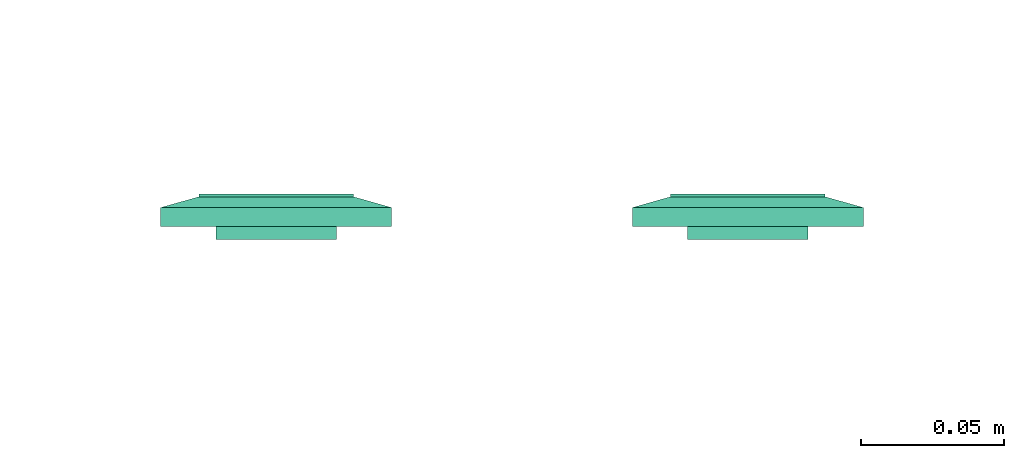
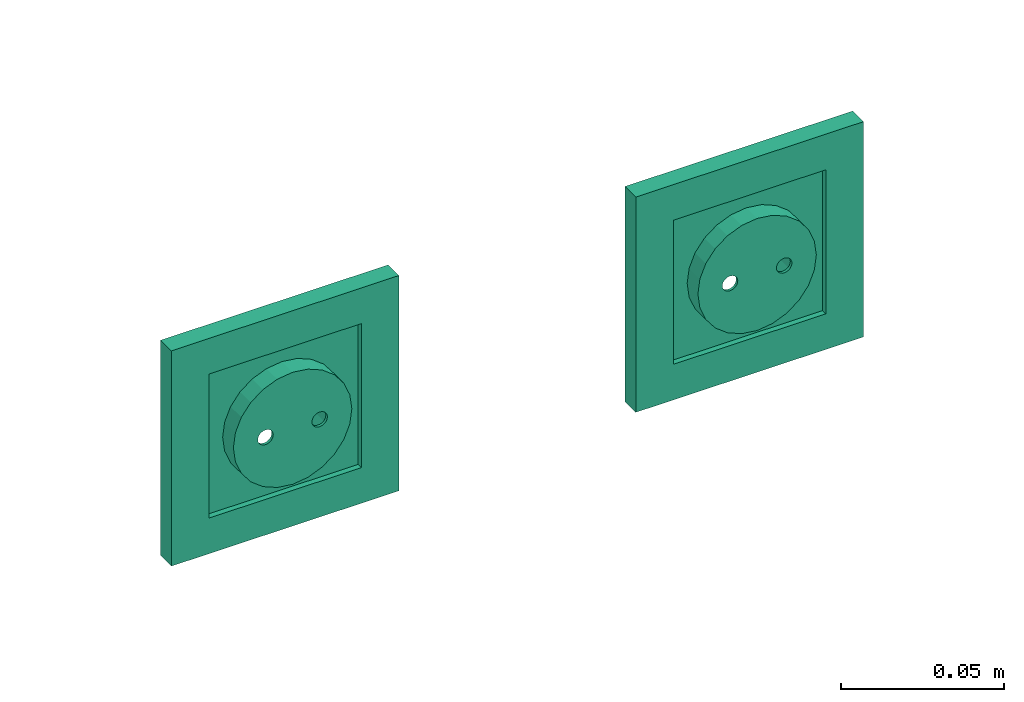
# One storey, part 50 of 146: 2 flow terminals.
"""IFC2X3 building model written with IfcOpenShell, lengths in metres."""

from ifc_helpers import new_model, entity, si_unit, converted_unit, derived_unit, direction, frame, origin, place, context, subcontext, project, spatial, face_set, surface_model, source, transform, mapped, type_object, type_shapes, element, save


model = new_model("IFC2X3")

# Units and contexts
model_context = context("Model", 3, precision=1e-05, world=origin(), true_north=direction((6.12303176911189e-17, 1.0)))
body_context = subcontext(model_context, "Body", "Model", "MODEL_VIEW")
ifc_project = project(units=[si_unit("LENGTHUNIT", "METRE"), si_unit("AREAUNIT", "SQUARE_METRE"), si_unit("VOLUMEUNIT", "CUBIC_METRE"), converted_unit("PLANEANGLEUNIT", "DEGREE", entity("IfcRatioMeasure", 0.0174532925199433), si_unit("PLANEANGLEUNIT", "RADIAN"), dimensions=[0, 0, 0, 0, 0, 0, 0]), si_unit("MASSUNIT", "GRAM", prefix="KILO"), derived_unit("MASSDENSITYUNIT", [(si_unit("MASSUNIT", "GRAM", prefix="KILO"), 1), (si_unit("LENGTHUNIT", "METRE"), -3)]), si_unit("TIMEUNIT", "SECOND"), si_unit("FREQUENCYUNIT", "HERTZ"), si_unit("THERMODYNAMICTEMPERATUREUNIT", "DEGREE_CELSIUS"), derived_unit("THERMALTRANSMITTANCEUNIT", [(si_unit("MASSUNIT", "GRAM", prefix="KILO"), 1), (si_unit("THERMODYNAMICTEMPERATUREUNIT", "KELVIN"), -1), (si_unit("TIMEUNIT", "SECOND"), -3)]), derived_unit("VOLUMETRICFLOWRATEUNIT", [(si_unit("LENGTHUNIT", "METRE"), 3), (si_unit("TIMEUNIT", "SECOND"), -1)]), si_unit("ELECTRICCURRENTUNIT", "AMPERE"), si_unit("ELECTRICVOLTAGEUNIT", "VOLT"), si_unit("POWERUNIT", "WATT"), si_unit("FORCEUNIT", "NEWTON"), si_unit("ILLUMINANCEUNIT", "LUX"), si_unit("LUMINOUSFLUXUNIT", "LUMEN"), si_unit("LUMINOUSINTENSITYUNIT", "CANDELA"), derived_unit("USERDEFINED", [(si_unit("MASSUNIT", "GRAM", prefix="KILO"), -1), (si_unit("LENGTHUNIT", "METRE"), -2), (si_unit("TIMEUNIT", "SECOND"), 3), (si_unit("LUMINOUSFLUXUNIT", "LUMEN"), 1)]), derived_unit("LINEARVELOCITYUNIT", [(si_unit("LENGTHUNIT", "METRE"), 1), (si_unit("TIMEUNIT", "SECOND"), -1)]), si_unit("PRESSUREUNIT", "PASCAL"), derived_unit("USERDEFINED", [(si_unit("LENGTHUNIT", "METRE"), -2), (si_unit("MASSUNIT", "GRAM", prefix="KILO"), 1), (si_unit("TIMEUNIT", "SECOND"), -2)])], contexts=[model_context])

# Site, building, storey
site_placement = place(None, origin())
site = spatial("IfcSite", under=ifc_project, at=site_placement, Name="Default", CompositionType="ELEMENT")
building_placement = place(site_placement, origin())
building = spatial("IfcBuilding", under=site, at=building_placement, CompositionType="ELEMENT")
storey_placement = place(building_placement, origin())
storey = spatial("IfcBuildingStorey", under=building, at=storey_placement, Name="S01", CompositionType="ELEMENT", Elevation=0.0)

# Flow terminals
light_fixture_type = type_object("IfcLightFixtureType", Name="PC IP21", PredefinedType="NOTDEFINED")
shared_shape = source(origin(), body_context, "Body", "SurfaceModel", [
    surface_model("IfcFaceBasedSurfaceModel", [(-0.00225000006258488, 0.0127499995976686, 0.00949633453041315), (0.0, 0.0104999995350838, 0.00949633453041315), (0.0, 0.0115376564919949, 0.0101656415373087), (0.0, 0.0139623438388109, 0.0101656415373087), (0.0, 0.0144589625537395, 0.00984531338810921), (0.0, 0.0121178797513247, 0.0102778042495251), (0.0, 0.0133821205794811, 0.0102778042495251), (0.0, 0.0127499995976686, 0.010399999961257), (0.0, 0.0149999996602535, 0.00949633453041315), (0.00225000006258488, 0.0127499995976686, 0.00949633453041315), (0.0, 0.0110410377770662, 0.00984531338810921), (0.0, 0.0127499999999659, 0.00949633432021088), (0.00225000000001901, 0.0127499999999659, 0.00949633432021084), (0.00217333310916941, 0.0121676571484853, 0.00949633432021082), (0.00194855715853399, 0.0116249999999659, 0.00949633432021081), (0.00159099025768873, 0.0111590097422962, 0.00949633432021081), (0.001125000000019, 0.010801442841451, 0.00949633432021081), (0.00058234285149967, 0.0105766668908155, 0.00949633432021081), (0.0, 0.0104999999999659, 0.00949633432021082), (-0.000582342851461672, 0.0105766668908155, 0.00949633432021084), (-0.001124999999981, 0.010801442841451, 0.00949633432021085), (-0.00159099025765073, 0.0111590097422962, 0.00949633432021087), (-0.00194855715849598, 0.011624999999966, 0.00949633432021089), (-0.0021733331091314, 0.0121676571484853, 0.00949633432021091), (-0.00224999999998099, 0.012749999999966, 0.00949633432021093), (-0.00217333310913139, 0.0133323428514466, 0.00949633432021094), (-0.00194855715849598, 0.013874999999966, 0.00949633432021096), (-0.00159099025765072, 0.0143409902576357, 0.00949633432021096), (-0.00112499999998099, 0.0146985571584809, 0.00949633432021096), (-0.00058234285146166, 0.0149233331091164, 0.00949633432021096), (0.0, 0.0149999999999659, 0.00949633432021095), (0.000582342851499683, 0.0149233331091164, 0.00949633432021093), (0.00112500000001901, 0.0146985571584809, 0.00949633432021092), (0.00159099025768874, 0.0143409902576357, 0.00949633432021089), (0.001948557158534, 0.0138749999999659, 0.00949633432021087), (0.00217333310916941, 0.0133323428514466, 0.00949633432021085), (0.00225000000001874, 0.0127499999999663, -0.00360000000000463), (0.00217333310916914, 0.0121676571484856, -0.00360000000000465), (0.00194855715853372, 0.0116249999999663, -0.00360000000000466), (0.00159099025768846, 0.0111590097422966, -0.00360000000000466), (0.00112500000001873, 0.0108014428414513, -0.00360000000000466), (0.000582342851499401, 0.0105766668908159, -0.00360000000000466), (0.0, 0.0104999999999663, -0.00360000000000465), (-0.000582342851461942, 0.0105766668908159, -0.00360000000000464), (-0.00112499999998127, 0.0108014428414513, -0.00360000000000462), (-0.001590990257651, 0.0111590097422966, -0.0036000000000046), (-0.00194855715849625, 0.0116249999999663, -0.00360000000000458), (-0.00217333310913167, 0.0121676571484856, -0.00360000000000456), (-0.00224999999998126, 0.0127499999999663, -0.00360000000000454), (-0.00217333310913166, 0.013332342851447, -0.00360000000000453), (-0.00194855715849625, 0.0138749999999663, -0.00360000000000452), (-0.00159099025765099, 0.014340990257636, -0.00360000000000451), (-0.00112499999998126, 0.0146985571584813, -0.00360000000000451), (-0.000582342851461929, 0.0149233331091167, -0.00360000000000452), (0.0, 0.0149999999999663, -0.00360000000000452), (0.000582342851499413, 0.0149233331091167, -0.00360000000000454), (0.00112500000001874, 0.0146985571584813, -0.00360000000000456), (0.00159099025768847, 0.014340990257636, -0.00360000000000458), (0.00194855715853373, 0.0138749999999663, -0.0036000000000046), (0.00217333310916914, 0.013332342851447, -0.00360000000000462), (0.0270000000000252, 0.026999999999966, 0.0113999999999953), (-0.0269999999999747, 0.026999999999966, 0.0113999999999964), (-0.0269999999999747, -0.0270000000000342, 0.0113999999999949), (0.0270000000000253, -0.0270000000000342, 0.0113999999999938), (-0.0199999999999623, 0.0, 0.0113999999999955), (-0.0193185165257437, -0.00517638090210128, 0.0113999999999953), (-0.0173205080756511, -0.0100000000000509, 0.0113999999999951), (-0.0141421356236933, -0.0141421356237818, 0.011399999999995), (-0.00999999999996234, -0.0173205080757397, 0.0113999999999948), (-0.00517638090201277, -0.0193185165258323, 0.0113999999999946), (0.0, -0.0200000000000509, 0.0113999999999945), (0.00517638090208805, -0.0193185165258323, 0.0113999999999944), (0.0100000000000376, -0.0173205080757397, 0.0113999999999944), (0.0141421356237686, -0.0141421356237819, 0.0113999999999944), (0.0173205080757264, -0.010000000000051, 0.0113999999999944), (0.0193185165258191, -0.00517638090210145, 0.0113999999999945), (0.0200000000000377, 0.0, 0.0113999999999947), (0.0193185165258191, 0.00517638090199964, 0.0113999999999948), (0.0173205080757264, 0.0099999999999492, 0.011399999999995), (0.0141421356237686, 0.0141421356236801, 0.0113999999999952), (0.0100000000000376, 0.0173205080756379, 0.0113999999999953), (0.00517638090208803, 0.0193185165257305, 0.0113999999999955), (0.0, 0.0199999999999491, 0.0113999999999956), (-0.00517638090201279, 0.0193185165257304, 0.0113999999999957), (-0.00999999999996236, 0.0173205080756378, 0.0113999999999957), (-0.0141421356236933, 0.01414213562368, 0.0113999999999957), (-0.0173205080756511, 0.00999999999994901, 0.0113999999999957), (-0.0193185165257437, 0.00517638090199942, 0.0113999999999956), (0.0270000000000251, 0.0269999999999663, 0.00199999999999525), (0.0270000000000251, -0.0270000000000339, 0.00199999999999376), (-0.0269999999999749, -0.0270000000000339, 0.00199999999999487), (-0.0269999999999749, 0.0269999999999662, 0.00199999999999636), (0.0210000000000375, 0.0, 0.00199999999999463), (0.0202844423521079, -0.00543519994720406, 0.00199999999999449), (0.0181865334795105, -0.0105000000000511, 0.0019999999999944), (0.0148492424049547, -0.0148492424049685, 0.00199999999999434), (0.0105000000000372, -0.0181865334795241, 0.00199999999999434), (0.0054351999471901, -0.0202844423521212, 0.00199999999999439), (0.0, -0.0210000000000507, 0.00199999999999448), (-0.00543519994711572, -0.020284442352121, 0.00199999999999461), (-0.0104999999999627, -0.0181865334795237, 0.00199999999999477), (-0.0148492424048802, -0.014849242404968, 0.00199999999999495), (-0.0181865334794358, -0.0105000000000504, 0.00199999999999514), (-0.020284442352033, -0.00543519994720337, 0.00199999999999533), (-0.0209999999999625, 0.0, 0.00199999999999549), (-0.0202844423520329, 0.0054351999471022, 0.00199999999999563), (-0.0181865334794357, 0.0104999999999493, 0.00199999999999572), (-0.01484924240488, 0.0148492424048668, 0.00199999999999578), (-0.0104999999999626, 0.0181865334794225, 0.00199999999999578), (-0.00543519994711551, 0.0202844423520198, 0.00199999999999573), (0.0, 0.0209999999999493, 0.00199999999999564), (0.00543519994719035, 0.0202844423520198, 0.00199999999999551), (0.0105000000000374, 0.0181865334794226, 0.00199999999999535), (0.0148492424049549, 0.0148492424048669, 0.00199999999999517), (0.0181865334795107, 0.0104999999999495, 0.00199999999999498), (0.0202844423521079, 0.00543519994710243, 0.00199999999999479), (0.0200000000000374, 0.0, -0.00360000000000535), (0.0193185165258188, -0.00517638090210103, -0.00360000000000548), (0.0173205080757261, -0.0100000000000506, -0.00360000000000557), (0.0141421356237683, -0.0141421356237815, -0.00360000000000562), (0.0100000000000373, -0.0173205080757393, -0.00360000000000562), (0.00517638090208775, -0.0193185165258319, -0.00360000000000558), (0.0, -0.0200000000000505, -0.00360000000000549), (-0.00517638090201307, -0.0193185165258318, -0.00360000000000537), (-0.00999999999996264, -0.0173205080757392, -0.00360000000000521), (-0.0141421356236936, -0.0141421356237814, -0.00360000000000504), (-0.0173205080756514, -0.0100000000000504, -0.00360000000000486), (-0.019318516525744, -0.00517638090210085, -0.00360000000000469), (-0.0199999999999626, 0.0, -0.00360000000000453), (-0.0193185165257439, 0.00517638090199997, -0.0036000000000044), (-0.0173205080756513, 0.00999999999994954, -0.00360000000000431), (-0.0141421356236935, 0.0141421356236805, -0.00360000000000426), (-0.00999999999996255, 0.0173205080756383, -0.00360000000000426), (-0.00517638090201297, 0.0193185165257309, -0.0036000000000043), (0.0, 0.0199999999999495, -0.00360000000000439), (0.00517638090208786, 0.0193185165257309, -0.00360000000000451), (0.0100000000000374, 0.0173205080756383, -0.00360000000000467), (0.0141421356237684, 0.0141421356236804, -0.00360000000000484), (0.0173205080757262, 0.0099999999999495, -0.00360000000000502), (0.0193185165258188, 0.00517638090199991, -0.00360000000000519), (-0.0123499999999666, 0.0, -0.00360000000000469), (-0.0122562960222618, -0.000711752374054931, -0.00360000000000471), (-0.0119815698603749, -0.00137500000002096, -0.00360000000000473), (-0.0115445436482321, -0.00194454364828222, -0.00360000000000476), (-0.0109749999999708, -0.00238156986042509, -0.00360000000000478), (-0.0103117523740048, -0.00265629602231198, -0.0036000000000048), (-0.00959999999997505, -0.00275000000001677, -0.00360000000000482), (-0.0088882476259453, -0.00265629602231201, -0.00360000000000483), (-0.00822499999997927, -0.00238156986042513, -0.00360000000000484), (-0.00765545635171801, -0.00194454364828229, -0.00360000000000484), (-0.00721843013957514, -0.00137500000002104, -0.00360000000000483), (-0.00694370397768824, -0.000711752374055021, -0.00360000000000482), (-0.00684999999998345, 0.0, -0.0036000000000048), (-0.00694370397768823, 0.000711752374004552, -0.00360000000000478), (-0.00721843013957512, 0.00137499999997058, -0.00360000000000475), (-0.00765545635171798, 0.00194454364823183, -0.00360000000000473), (-0.00822499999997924, 0.00238156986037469, -0.0036000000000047), (-0.00888824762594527, 0.00265629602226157, -0.00360000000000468), (-0.00959999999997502, 0.00274999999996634, -0.00360000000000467), (-0.0103117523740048, 0.00265629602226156, -0.00360000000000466), (-0.0109749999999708, 0.00238156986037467, -0.00360000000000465), (-0.011544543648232, 0.00194454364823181, -0.00360000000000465), (-0.0119815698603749, 0.00137499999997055, -0.00360000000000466), (-0.0122562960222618, 0.000711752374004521, -0.00360000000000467), (0.00685000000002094, 0.0, -0.00360000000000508), (0.0069437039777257, -0.00071175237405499, -0.0036000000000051), (0.00721843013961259, -0.00137500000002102, -0.00360000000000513), (0.00765545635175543, -0.00194454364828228, -0.00360000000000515), (0.00822500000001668, -0.00238156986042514, -0.00360000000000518), (0.00888824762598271, -0.00265629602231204, -0.0036000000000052), (0.00960000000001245, -0.00275000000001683, -0.00360000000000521), (0.0103117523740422, -0.00265629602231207, -0.00360000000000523), (0.0109750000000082, -0.00238156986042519, -0.00360000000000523), (0.0115445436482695, -0.00194454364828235, -0.00360000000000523), (0.0119815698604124, -0.0013750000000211, -0.00360000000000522), (0.0122562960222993, -0.00071175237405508, -0.00360000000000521), (0.012350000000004, 0.0, -0.00360000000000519), (0.0122562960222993, 0.000711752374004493, -0.00360000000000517), (0.0119815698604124, 0.00137499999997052, -0.00360000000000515), (0.0115445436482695, 0.00194454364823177, -0.00360000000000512), (0.0109750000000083, 0.00238156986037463, -0.0036000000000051), (0.0103117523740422, 0.00265629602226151, -0.00360000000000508), (0.00960000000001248, 0.00274999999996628, -0.00360000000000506), (0.00888824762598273, 0.0026562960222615, -0.00360000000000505), (0.0082250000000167, 0.00238156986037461, -0.00360000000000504), (0.00765545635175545, 0.00194454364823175, -0.00360000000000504), (0.0072184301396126, 0.00137499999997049, -0.00360000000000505), (0.00694370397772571, 0.000711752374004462, -0.00360000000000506), (0.0210000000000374, 0.0, -0.00460000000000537), (0.0202844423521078, -0.00543519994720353, -0.00460000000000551), (0.0181865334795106, -0.0105000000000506, -0.0046000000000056), (0.0148492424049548, -0.0148492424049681, -0.00460000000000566), (0.0105000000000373, -0.0181865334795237, -0.00460000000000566), (0.00543519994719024, -0.0202844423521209, -0.00460000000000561), (0.0, -0.0210000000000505, -0.00460000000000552), (-0.00543519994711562, -0.0202844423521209, -0.00460000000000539), (-0.0104999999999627, -0.0181865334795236, -0.00460000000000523), (-0.0148492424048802, -0.0148492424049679, -0.00460000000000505), (-0.0181865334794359, -0.0105000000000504, -0.00460000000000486), (-0.0202844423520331, -0.00543519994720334, -0.00460000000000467), (-0.0209999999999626, 0.0, -0.00460000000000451), (-0.020284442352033, 0.00543519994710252, -0.00460000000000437), (-0.0181865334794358, 0.0104999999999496, -0.00460000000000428), (-0.0148492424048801, 0.0148492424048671, -0.00460000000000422), (-0.0104999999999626, 0.0181865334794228, -0.00460000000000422), (-0.00543519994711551, 0.02028444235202, -0.00460000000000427), (0.0, 0.0209999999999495, -0.00460000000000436), (0.00543519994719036, 0.02028444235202, -0.00460000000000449), (0.0105000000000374, 0.0181865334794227, -0.00460000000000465), (0.0148492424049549, 0.014849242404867, -0.00460000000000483), (0.0181865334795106, 0.0104999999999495, -0.00460000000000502), (0.0202844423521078, 0.00543519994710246, -0.00460000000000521), (-0.00684999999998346, 0.0, -0.0046000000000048), (-0.00694370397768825, 0.000711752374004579, -0.00460000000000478), (-0.00721843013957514, 0.00137499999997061, -0.00460000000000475), (-0.007655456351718, 0.00194454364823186, -0.00460000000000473), (-0.00822499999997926, 0.00238156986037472, -0.0046000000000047), (-0.00888824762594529, 0.0026562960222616, -0.00460000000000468), (-0.00959999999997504, 0.00274999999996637, -0.00460000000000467), (-0.0103117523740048, 0.00265629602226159, -0.00460000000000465), (-0.0109749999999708, 0.0023815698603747, -0.00460000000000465), (-0.0115445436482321, 0.00194454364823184, -0.00460000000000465), (-0.0119815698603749, 0.00137499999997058, -0.00460000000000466), (-0.0122562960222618, 0.000711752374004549, -0.00460000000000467), (-0.0123499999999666, 0.0, -0.00460000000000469), (-0.0122562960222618, -0.000711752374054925, -0.00460000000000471), (-0.0119815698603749, -0.00137500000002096, -0.00460000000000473), (-0.0115445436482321, -0.00194454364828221, -0.00460000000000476), (-0.0109749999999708, -0.00238156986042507, -0.00460000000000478), (-0.0103117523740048, -0.00265629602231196, -0.0046000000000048), (-0.00959999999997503, -0.00275000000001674, -0.00460000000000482), (-0.00888824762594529, -0.00265629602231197, -0.00460000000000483), (-0.00822499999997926, -0.00238156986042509, -0.00460000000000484), (-0.007655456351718, -0.00194454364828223, -0.00460000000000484), (-0.00721843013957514, -0.00137500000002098, -0.00460000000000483), (-0.00694370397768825, -0.000711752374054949, -0.00460000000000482), (0.012350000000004, 0.0, -0.00460000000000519), (0.0122562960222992, 0.000711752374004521, -0.00460000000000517), (0.0119815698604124, 0.00137499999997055, -0.00460000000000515), (0.0115445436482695, 0.0019445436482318, -0.00460000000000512), (0.0109750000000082, 0.00238156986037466, -0.0046000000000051), (0.0103117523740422, 0.00265629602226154, -0.00460000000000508), (0.00960000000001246, 0.00274999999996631, -0.00460000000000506), (0.00888824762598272, 0.00265629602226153, -0.00460000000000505), (0.00822500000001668, 0.00238156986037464, -0.00460000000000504), (0.00765545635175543, 0.00194454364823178, -0.00460000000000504), (0.00721843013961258, 0.00137499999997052, -0.00460000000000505), (0.00694370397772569, 0.00071175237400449, -0.00460000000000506), (0.00685000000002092, 0.0, -0.00460000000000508), (0.00694370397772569, -0.000711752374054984, -0.0046000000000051), (0.00721843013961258, -0.00137500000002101, -0.00460000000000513), (0.00765545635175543, -0.00194454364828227, -0.00460000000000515), (0.00822500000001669, -0.00238156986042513, -0.00460000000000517), (0.00888824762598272, -0.00265629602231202, -0.0046000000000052), (0.00960000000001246, -0.0027500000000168, -0.00460000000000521), (0.0103117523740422, -0.00265629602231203, -0.00460000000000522), (0.0109750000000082, -0.00238156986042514, -0.00460000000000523), (0.0115445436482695, -0.00194454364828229, -0.00460000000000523), (0.0119815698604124, -0.00137500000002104, -0.00460000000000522), (0.0122562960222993, -0.000711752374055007, -0.00460000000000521), (0.040350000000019, 0.0403499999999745, 0.00659999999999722), (0.040350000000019, -0.0403500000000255, 0.00659999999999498), (-0.0403499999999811, -0.0403500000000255, 0.00659999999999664), (-0.0403499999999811, 0.0403499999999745, 0.00659999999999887), (0.027000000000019, 0.0269999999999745, 0.00659999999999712), (-0.0269999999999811, 0.0269999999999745, 0.00659999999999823), (-0.026999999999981, -0.0270000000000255, 0.00659999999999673), (0.027000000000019, -0.0270000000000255, 0.00659999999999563), (0.027000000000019, 0.0269999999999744, 0.0103999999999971), (-0.026999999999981, 0.0269999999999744, 0.0103999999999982), (-0.026999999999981, -0.0270000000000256, 0.0103999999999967), (0.027000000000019, -0.0270000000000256, 0.0103999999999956), (0.040350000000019, 0.0403499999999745, 0.00659999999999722), (0.040350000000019, -0.0403500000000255, 0.00659999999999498), (-0.0403499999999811, -0.0403500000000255, 0.00659999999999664), (-0.0403499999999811, 0.0403499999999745, 0.00659999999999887), (-0.0269999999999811, 0.0269999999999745, 0.00659999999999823), (-0.0269999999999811, -0.0270000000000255, 0.00659999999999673), (0.0270000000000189, -0.0270000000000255, 0.00659999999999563), (0.0270000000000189, 0.0269999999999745, 0.00659999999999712), (0.0403500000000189, 0.0403499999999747, 0.0), (0.0403500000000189, -0.0403500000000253, 0.0), (-0.0403499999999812, -0.0403500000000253, 0.0), (-0.0403499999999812, 0.0403499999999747, 0.0), (0.0270000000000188, 0.0269999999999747, 0.0), (-0.0269999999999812, 0.0269999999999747, 0.0), (-0.0269999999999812, -0.0270000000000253, 0.0), (0.0270000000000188, -0.0270000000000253, 0.0)], [face_set([[[0, 1, 2]], [[3, 4, 2, 5]], [[6, 3, 5, 7]], [[2, 4, 0]], [[4, 8, 0]], [[3, 9, 8]], [[1, 9, 10]], [[2, 3, 6, 7]], [[3, 10, 9]], [[2, 10, 3]], [[11, 1, 0, 8]], [[11, 8, 9, 1]]]), face_set([[[12, 13, 14, 15, 16, 17, 18, 19, 20, 21, 22, 23, 24, 25, 26, 27, 28, 29, 30, 31, 32, 33, 34, 35]], [[36, 37, 38, 39, 40, 41, 42, 43, 44, 45, 46, 47, 48, 49, 50, 51, 52, 53, 54, 55, 56, 57, 58, 59]], [[48, 47, 23, 24]], [[47, 46, 22, 23]], [[45, 44, 20, 21]], [[46, 45, 21, 22]], [[44, 43, 19, 20]], [[18, 19, 43, 42]], [[42, 41, 17, 18]], [[41, 40, 16, 17]], [[39, 38, 14, 15]], [[40, 39, 15, 16]], [[38, 37, 13, 14]], [[12, 13, 37, 36]], [[36, 59, 35, 12]], [[59, 58, 34, 35]], [[57, 56, 32, 33]], [[58, 57, 33, 34]], [[56, 55, 31, 32]], [[30, 31, 55, 54]], [[54, 53, 29, 30]], [[53, 52, 28, 29]], [[51, 50, 26, 27]], [[52, 51, 27, 28]], [[50, 49, 25, 26]], [[24, 25, 49, 48]]]), face_set([[[60, 61, 62, 63], [64, 65, 66, 67, 68, 69, 70, 71, 72, 73, 74, 75, 76, 77, 78, 79, 80, 81, 82, 83, 84, 85, 86, 87]], [[88, 89, 90, 91], [92, 93, 94, 95, 96, 97, 98, 99, 100, 101, 102, 103, 104, 105, 106, 107, 108, 109, 110, 111, 112, 113, 114, 115]], [[61, 60, 88, 91]], [[62, 61, 91, 90]], [[63, 62, 90, 89]], [[60, 63, 89, 88]], [[116, 117, 118, 119, 120, 121, 122, 123, 124, 125, 126, 127, 128, 129, 130, 131, 132, 133, 134, 135, 136, 137, 138, 139], [140, 141, 142, 143, 144, 145, 146, 147, 148, 149, 150, 151, 152, 153, 154, 155, 156, 157, 158, 159, 160, 161, 162, 163], [164, 165, 166, 167, 168, 169, 170, 171, 172, 173, 174, 175, 176, 177, 178, 179, 180, 181, 182, 183, 184, 185, 186, 187]], [[64, 128, 127, 65]], [[65, 127, 126, 66]], [[67, 125, 124, 68]], [[66, 126, 125, 67]], [[68, 124, 123, 69]], [[122, 70, 69, 123]], [[70, 122, 121, 71]], [[71, 121, 120, 72]], [[73, 119, 118, 74]], [[72, 120, 119, 73]], [[74, 118, 117, 75]], [[116, 76, 75, 117]], [[76, 116, 139, 77]], [[77, 139, 138, 78]], [[79, 137, 136, 80]], [[78, 138, 137, 79]], [[80, 136, 135, 81]], [[134, 82, 81, 135]], [[82, 134, 133, 83]], [[83, 133, 132, 84]], [[84, 132, 131, 85]], [[85, 131, 130, 86]], [[130, 129, 87, 86]], [[64, 87, 129, 128]], [[188, 189, 190, 191, 192, 193, 194, 195, 196, 197, 198, 199, 200, 201, 202, 203, 204, 205, 206, 207, 208, 209, 210, 211], [212, 213, 214, 215, 216, 217, 218, 219, 220, 221, 222, 223, 224, 225, 226, 227, 228, 229, 230, 231, 232, 233, 234, 235], [236, 237, 238, 239, 240, 241, 242, 243, 244, 245, 246, 247, 248, 249, 250, 251, 252, 253, 254, 255, 256, 257, 258, 259]], [[200, 199, 103, 104]], [[199, 198, 102, 103]], [[197, 196, 100, 101]], [[198, 197, 101, 102]], [[196, 195, 99, 100]], [[98, 99, 195, 194]], [[194, 193, 97, 98]], [[193, 192, 96, 97]], [[191, 190, 94, 95]], [[192, 191, 95, 96]], [[190, 189, 93, 94]], [[92, 93, 189, 188]], [[188, 211, 115, 92]], [[211, 210, 114, 115]], [[209, 208, 112, 113]], [[210, 209, 113, 114]], [[208, 207, 111, 112]], [[110, 111, 207, 206]], [[206, 205, 109, 110]], [[205, 204, 108, 109]], [[203, 202, 106, 107]], [[204, 203, 107, 108]], [[202, 201, 105, 106]], [[104, 105, 201, 200]], [[141, 225, 226, 142]], [[140, 224, 225, 141]], [[144, 228, 229, 145]], [[143, 227, 228, 144]], [[142, 226, 227, 143]], [[230, 146, 145, 229]], [[149, 233, 232, 148]], [[148, 232, 231, 147]], [[152, 212, 235, 151]], [[151, 235, 234, 150]], [[150, 234, 233, 149]], [[146, 230, 231, 147]], [[154, 214, 213, 153]], [[153, 213, 212, 152]], [[157, 217, 216, 156]], [[156, 216, 215, 155]], [[155, 215, 214, 154]], [[218, 158, 157, 217]], [[160, 220, 221, 161]], [[159, 219, 220, 160]], [[163, 223, 224, 140]], [[162, 222, 223, 163]], [[161, 221, 222, 162]], [[158, 218, 219, 159]], [[166, 250, 249, 165]], [[165, 249, 248, 164]], [[169, 253, 252, 168]], [[168, 252, 251, 167]], [[167, 251, 250, 166]], [[254, 170, 169, 253]], [[172, 256, 257, 173]], [[171, 255, 256, 172]], [[175, 259, 236, 176]], [[174, 258, 259, 175]], [[173, 257, 258, 174]], [[170, 254, 255, 171]], [[177, 237, 238, 178]], [[176, 236, 237, 177]], [[180, 240, 241, 181]], [[179, 239, 240, 180]], [[178, 238, 239, 179]], [[242, 182, 181, 241]], [[185, 245, 244, 184]], [[184, 244, 243, 183]], [[164, 248, 247, 187]], [[187, 247, 246, 186]], [[186, 246, 245, 185]], [[182, 242, 243, 183]]]), face_set([[[260, 261, 262, 263], [264, 265, 266, 267]], [[260, 268, 269, 263]], [[263, 269, 270, 262]], [[262, 270, 271, 261]], [[261, 271, 268, 260]], [[264, 265, 269, 268]], [[265, 266, 270, 269]], [[266, 267, 271, 270]], [[268, 271, 267, 264]]]), face_set([[[272, 273, 274, 275], [276, 277, 278, 279]], [[280, 281, 282, 283], [284, 285, 286, 287]], [[275, 272, 280, 283]], [[274, 275, 283, 282]], [[273, 274, 282, 281]], [[272, 273, 281, 280]], [[284, 285, 276, 279]], [[285, 286, 277, 276]], [[286, 287, 278, 277]], [[279, 278, 287, 284]]])]),
])
type_shapes(light_fixture_type, [shared_shape])
for number, where, z_axis, x_axis in (
    (1, (51.8617146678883, -190.50556962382, 1.0), (0.0, 1.0, 0.0), (-1.0, 0.0, 0.0)),
    (2, (51.6970201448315, -190.50556962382, 1.0), (0.0, 1.0, 0.0), (-1.0, 0.0, 0.0)),
):
    element("IfcFlowTerminal", number, at=place(storey_placement, frame(where, z_axis=z_axis, x_axis=x_axis)), inside=storey, type_object=light_fixture_type, Name="INT Prise de courant:PC IP21", ObjectType="INT Prise de courant:PC IP21", context=body_context, shape_type="MappedRepresentation", body=[
        mapped(shared_shape, transform((0.0, 0.0, 0.0), scale=1.0)),
    ])

save(model, "model.ifc")
